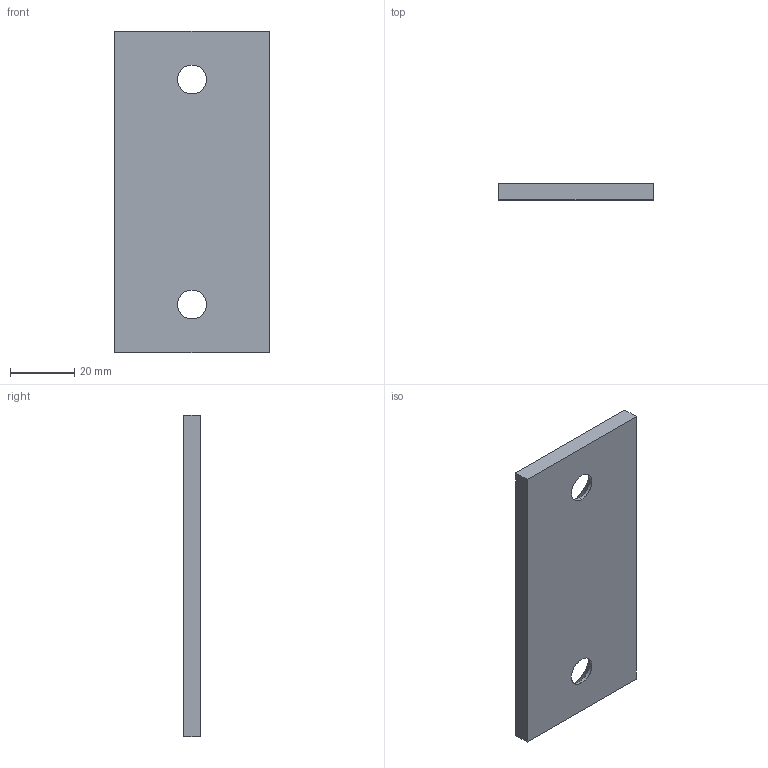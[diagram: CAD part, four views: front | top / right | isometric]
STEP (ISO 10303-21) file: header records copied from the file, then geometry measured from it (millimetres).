
FILE_DESCRIPTION(('CATIA V5 STEP Exchange'),'2;1');
FILE_NAME('C:\Users\Utente\Desktop\3D files A605\A605-048-100.stp','2020-04-13T15:44:08+00:00',('none'),('none'),'CATIA Version 5 Release 20 GA (IN-10)','CATIA V5 STEP AP203','none');
FILE_SCHEMA(('CONFIG_CONTROL_DESIGN'));
Length unit declared in the file: millimetre
Products named in the file (1): Noname
Bounding box: 48 x 5 x 100 mm (x, y, z)
Surface area: 11017.4 mm2 (no closed solid volume)
Topology: 0 solids, 10 shells, 14 faces, 56 edges, 48 vertices
Faces by surface type: extrusion 6, cylinder 4, revolution 4
Entity records: 726 total; most frequent: CARTESIAN_POINT 233, DIRECTION 66, ORIENTED_EDGE 64, EDGE_CURVE 56, VERTEX_POINT 48, VECTOR 38, LINE 32, AXIS2_PLACEMENT_3D 21
